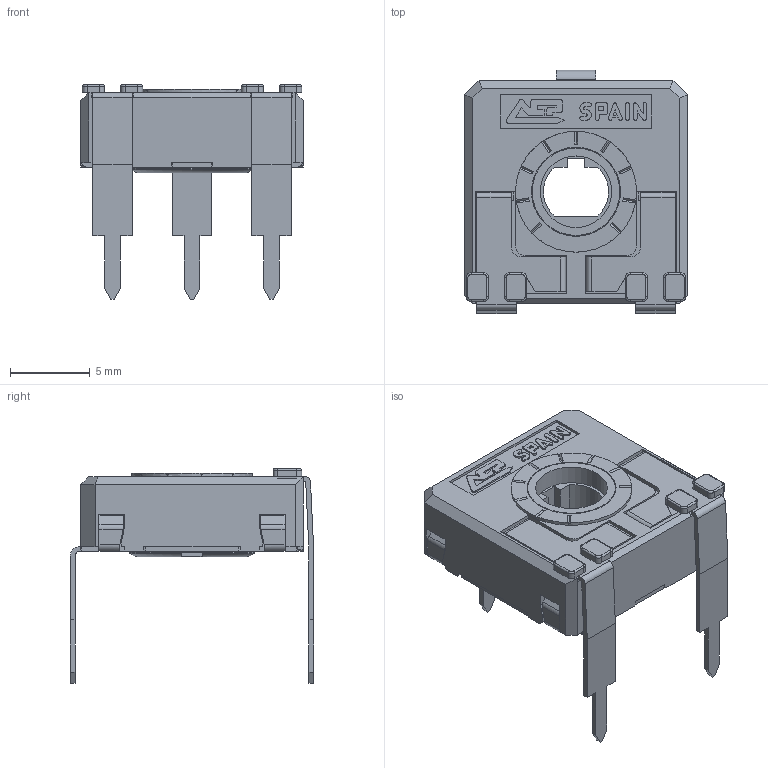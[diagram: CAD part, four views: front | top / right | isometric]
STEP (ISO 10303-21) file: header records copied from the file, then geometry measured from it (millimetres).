
FILE_DESCRIPTION(/* description */ (''),/* implementation_level */ '2;1');
FILE_NAME(/* name */ 'C:\Users\CEM\Desktop\ENVIAR\TRANSICION 3D CATALOGOS\RS14TVJ15.stp',/* time_stamp */ '2025-12-10T11:27:44+01:00',/* author */ ('CEM'),/* organization */ (''),/* preprocessor_version */ 'ST-DEVELOPER v16.13',/* originating_system */ 'Autodesk Inventor 2018',/* authorisation */ '');
FILE_SCHEMA (('AUTOMOTIVE_DESIGN { 1 0 10303 214 3 1 1 }'));
Length unit declared in the file: millimetre
Products named in the file (1): CARCASA CA14 PGA
Bounding box: 14 x 15.3 x 13.5 mm (x, y, z)
Volume: 529.7 mm3; surface area: 1514.1 mm2
Topology: 1 solids, 1 shells, 677 faces, 1905 edges, 1225 vertices
Faces by surface type: plane 501, cylinder 139, torus 23, bspline 8, cone 6
Full cylindrical faces by diameter (mm): 4.5 x1, 5.5 x1, 5.6 x1, 5.752 x1, 6.8 x1, 7.6 x1
Entity records: 21907 total; most frequent: CARTESIAN_POINT 4000, ORIENTED_EDGE 3780, DIRECTION 3564, EDGE_CURVE 1890, LINE 1500, VECTOR 1500, VERTEX_POINT 1220, AXIS2_PLACEMENT_3D 1032
